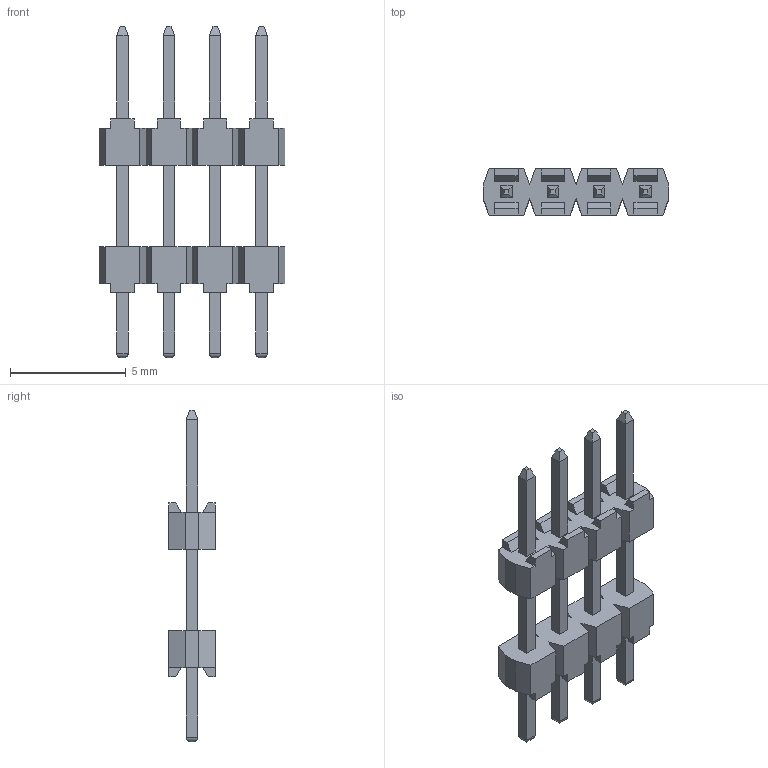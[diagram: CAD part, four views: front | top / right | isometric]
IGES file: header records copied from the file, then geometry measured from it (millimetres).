
Global section: file name: N:\GOLF_VI_2mm_UGII\9514XX_901XX06_AR\951404-9011506-AR.igs; native system: NX V3.0; preprocessor: UGS NX IGES V4.0; date: 20070314.112949; units: millimetre
Bounding box: 8 x 2 x 14.3 mm (x, y, z)
Surface area: 238.2 mm2 (no closed solid volume)
Topology: 0 solids, 0 shells, 208 faces, 1113 edges, 1113 vertices
Faces by surface type: bspline 208
